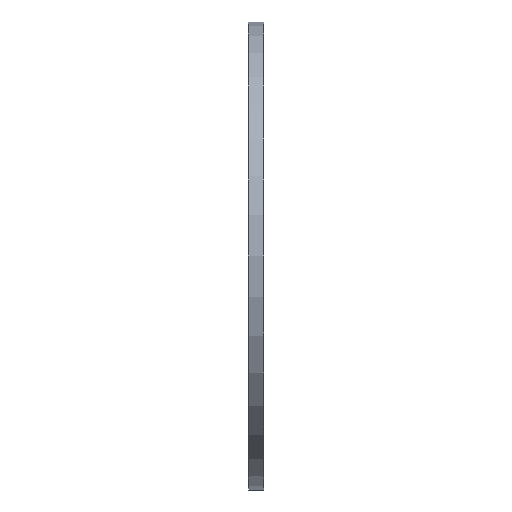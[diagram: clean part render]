
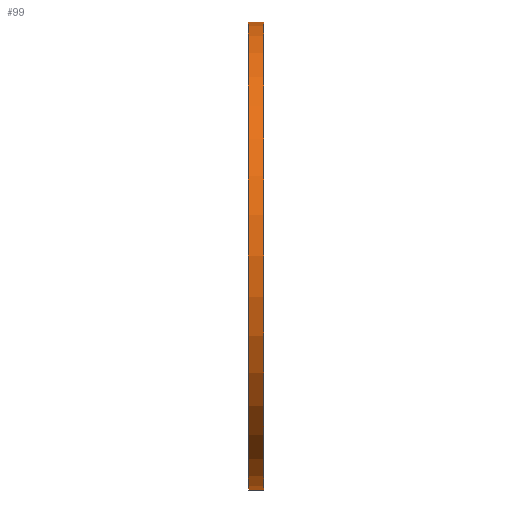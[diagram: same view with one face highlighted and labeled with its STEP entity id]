
A CAD part, left-side view. The second image highlights one B-rep face of the part: STEP entity #99.
In plain terms, the highlighted cylindrical face has radius 390 mm (diameter 780 mm), a partial arc.
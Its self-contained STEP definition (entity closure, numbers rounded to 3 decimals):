
#16 = CIRCLE ( 'NONE', #1481, 390. ) ;
#45 = EDGE_CURVE ( 'NONE', #212, #1055, #16, .T. ) ;
#66 = CARTESIAN_POINT ( 'NONE',  ( 0., 0., 390. ) ) ;
#93 = AXIS2_PLACEMENT_3D ( 'NONE', #1042, #1543, #1440 ) ;
#99 = ADVANCED_FACE ( 'NONE', ( #329 ), #1095, .T. ) ;
#143 = CARTESIAN_POINT ( 'NONE',  ( 0., 25., 390. ) ) ;
#146 = CIRCLE ( 'NONE', #93, 390. ) ;
#168 = ORIENTED_EDGE ( 'NONE', *, *, #45, .T. ) ;
#212 = VERTEX_POINT ( 'NONE', #1647 ) ;
#228 = EDGE_CURVE ( 'NONE', #212, #408, #1145, .T. ) ;
#261 = ORIENTED_EDGE ( 'NONE', *, *, #511, .T. ) ;
#294 = CARTESIAN_POINT ( 'NONE',  ( 0., 25., -390. ) ) ;
#329 = FACE_OUTER_BOUND ( 'NONE', #634, .T. ) ;
#408 = VERTEX_POINT ( 'NONE', #294 ) ;
#499 = CARTESIAN_POINT ( 'NONE',  ( 0., 38.545, -390. ) ) ;
#511 = EDGE_CURVE ( 'NONE', #1055, #1149, #1227, .T. ) ;
#634 = EDGE_LOOP ( 'NONE', ( #666, #168, #261, #1264 ) ) ;
#666 = ORIENTED_EDGE ( 'NONE', *, *, #228, .F. ) ;
#688 = VECTOR ( 'NONE', #1002, 1000. ) ;
#976 = DIRECTION ( 'NONE',  ( 0., 1., 0. ) ) ;
#981 = VECTOR ( 'NONE', #1199, 1000. ) ;
#1002 = DIRECTION ( 'NONE',  ( 0., 1., 0. ) ) ;
#1042 = CARTESIAN_POINT ( 'NONE',  ( 0., 25., 0. ) ) ;
#1055 = VERTEX_POINT ( 'NONE', #66 ) ;
#1066 = CARTESIAN_POINT ( 'NONE',  ( 0., 38.545, 390. ) ) ;
#1078 = CARTESIAN_POINT ( 'NONE',  ( 0., 38.545, 0. ) ) ;
#1084 = AXIS2_PLACEMENT_3D ( 'NONE', #1078, #976, #1603 ) ;
#1095 = CYLINDRICAL_SURFACE ( 'NONE', #1084, 390. ) ;
#1105 = CARTESIAN_POINT ( 'NONE',  ( 0., 0., 0. ) ) ;
#1145 = LINE ( 'NONE', #499, #688 ) ;
#1149 = VERTEX_POINT ( 'NONE', #143 ) ;
#1199 = DIRECTION ( 'NONE',  ( 0., 1., 0. ) ) ;
#1206 = EDGE_CURVE ( 'NONE', #408, #1149, #146, .T. ) ;
#1219 = DIRECTION ( 'NONE',  ( 0., 1., 0. ) ) ;
#1227 = LINE ( 'NONE', #1066, #981 ) ;
#1264 = ORIENTED_EDGE ( 'NONE', *, *, #1206, .F. ) ;
#1440 = DIRECTION ( 'NONE',  ( 0., 0., 1. ) ) ;
#1467 = DIRECTION ( 'NONE',  ( 0., 0., 1. ) ) ;
#1481 = AXIS2_PLACEMENT_3D ( 'NONE', #1105, #1219, #1467 ) ;
#1543 = DIRECTION ( 'NONE',  ( 0., 1., 0. ) ) ;
#1603 = DIRECTION ( 'NONE',  ( 0., 0., 1. ) ) ;
#1647 = CARTESIAN_POINT ( 'NONE',  ( 0., 0., -390. ) ) ;
